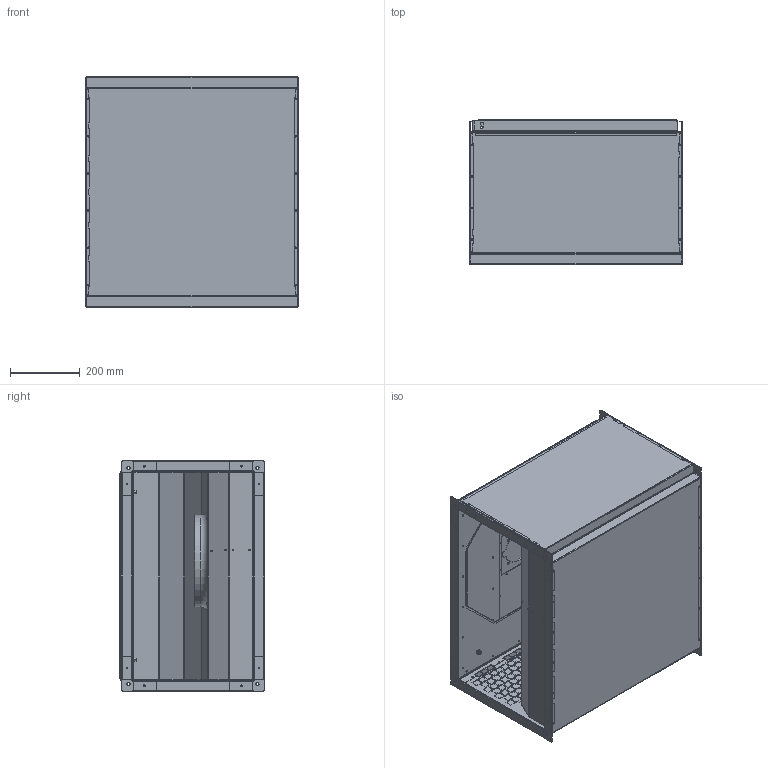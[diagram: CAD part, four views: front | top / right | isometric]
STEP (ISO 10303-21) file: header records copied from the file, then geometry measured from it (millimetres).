
FILE_DESCRIPTION (( 'STEP AP203' ), '1' );
FILE_NAME ('131407-00_KVRI06035E431.STEP', '2015-05-11T10:30:41', ( '' ), ( '' ), 'SwSTEP 2.0', 'SolidWorks 2012', '' );
FILE_SCHEMA (( 'CONFIG_CONTROL_DESIGN' ));
Products named in the file (1): 131407-00_KVRI06035E431
Bounding box: 610 x 417.5 x 662 mm (x, y, z)
Surface area: 5106965.2 mm2 (no closed solid volume)
Topology: 0 solids, 60 shells, 1795 faces, 12950 edges, 10928 vertices
Faces by surface type: plane 1294, cylinder 478, torus 12, bspline 7, cone 4
Entity records: 124831 total; most frequent: CARTESIAN_POINT 26777, DIRECTION 18215, ORIENTED_EDGE 16186, EDGE_CURVE 12950, LINE 11099, VECTOR 11099, VERTEX_POINT 10928, EDGE_LOOP 4219
